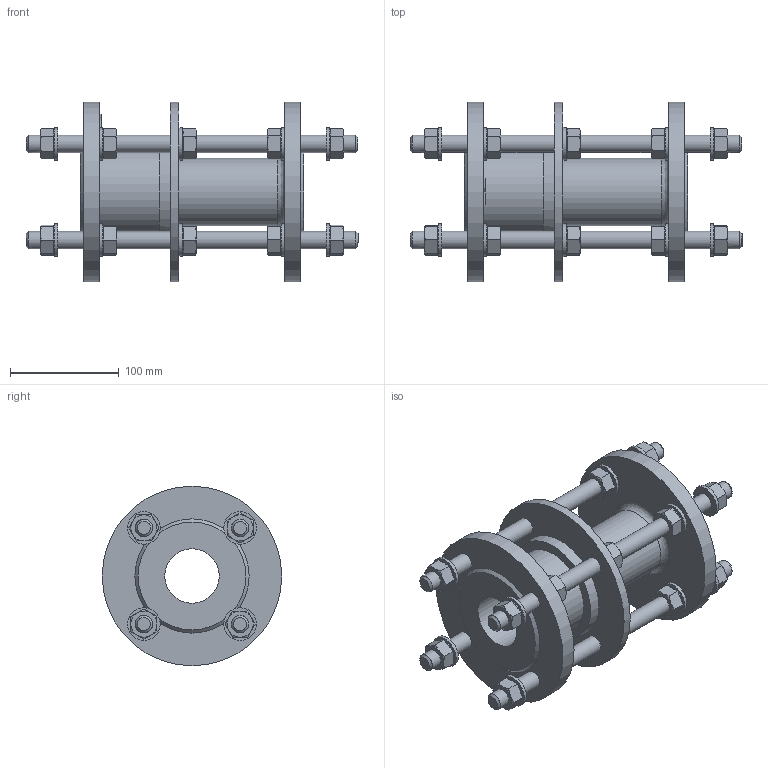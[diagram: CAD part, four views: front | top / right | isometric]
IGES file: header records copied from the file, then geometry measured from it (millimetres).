
Start section: SolidWorks IGES file using analytic representation for surfaces
Global section: file name: \\avksan2\techshare\PBM outline export from Enovia\O_265_910_DN50_1XXXXX00_L=205_REV01.igs; native system: SolidWorks 2022; preprocessor: SolidWorks 2022; author: pbm; date: 241011.095835; units: millimetre
Bounding box: 305 x 165 x 165 mm (x, y, z)
Surface area: 266476.7 mm2 (no closed solid volume)
Topology: 0 solids, 0 shells, 548 faces, 2292 edges, 2210 vertices
Faces by surface type: bspline 344, revolution 204
